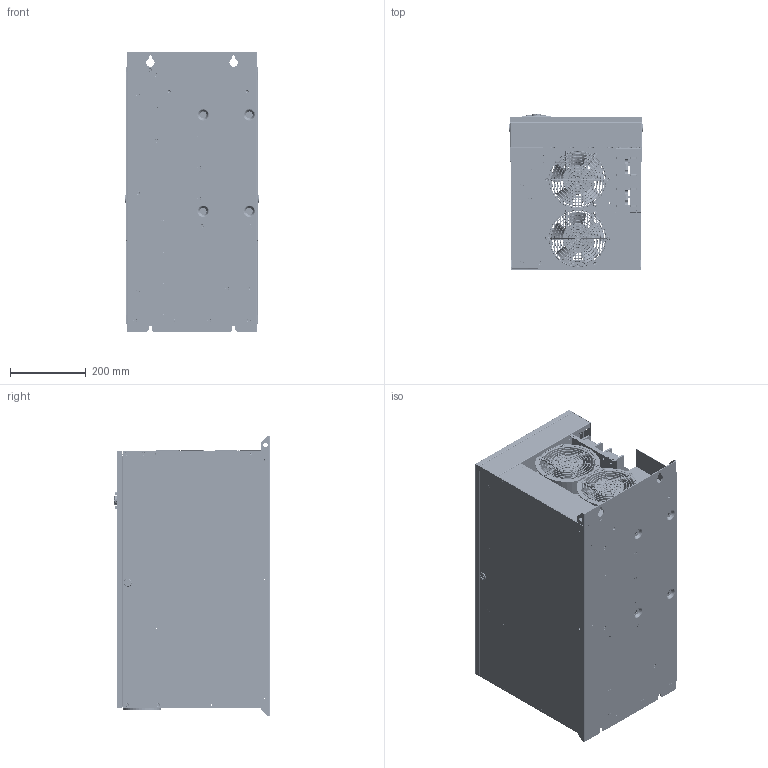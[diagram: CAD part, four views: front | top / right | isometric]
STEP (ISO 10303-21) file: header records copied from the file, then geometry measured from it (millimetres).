
FILE_DESCRIPTION(/* description */ (''),/* implementation_level */ '2;1');
FILE_NAME(/* name */ 'VF302C-B8-3d.step',/* time_stamp */ '2023-03-02T11:30:36+07:00',/* author */ (''),/* organization */ (''),/* preprocessor_version */ 'ST-DEVELOPER v19.2',/* originating_system */ 'Autodesk Translation Framework v11.17.0.187',/* authorisation */ '');
FILE_SCHEMA (('AUTOMOTIVE_DESIGN { 1 0 10303 214 3 1 1 }'));
Products named in the file (15): (Unsaved); VF302C-B8-D_ASM; VF302C-B8-P_ASM; P001_ASM; P014_ASM; P020_ASM; P021_ASM; display_2; knopka_pusk; knopka_stop; knopka_prg2; knopka_jog_rev; tablichka3_gc_v_a; gc_v_a; VEDAVFD
Assembly tree (14 placements, depth 3):
  (Unsaved)
    VF302C-B8-D_ASM
    VF302C-B8-P_ASM
      P001_ASM
      P014_ASM
      P020_ASM
      P021_ASM
    display_2
      knopka_pusk
      knopka_stop
      knopka_prg2
      knopka_jog_rev
    tablichka3_gc_v_a
      gc_v_a
    VEDAVFD
Bounding box: 355.5 x 412.77 x 738 mm (x, y, z)
Volume: 4757495 mm3; surface area: 4752076.3 mm2
Topology: 227 solids, 244 shells, 18916 faces, 49796 edges, 32381 vertices
Faces by surface type: plane 13080, bspline 2630, cylinder 2367, cone 415, torus 289, sphere 135
Full cylindrical faces by diameter (mm): 0.1 x4, 0.5 x8, 0.8 x30, 0.9 x8, 1 x19, 1.08 x1, 1.2 x2, 1.5 x4, 1.6 x2, 1.625 x2, 1.8 x8, 2 x30, 2.2 x12, 2.5 x32, 2.6 x6, 2.65 x12, 3 x11, 3.2 x1, 3.5 x1, 3.6 x22, 3.8 x20, 4 x93, 4.2 x92, 4.39 x2, 4.5 x20, 4.99 x4, 5 x30, 5.38 x22, 5.39 x6, 5.4 x57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
Entity records: 650707 total; most frequent: CARTESIAN_POINT 179470, ORIENTED_EDGE 99223, DIRECTION 88710, EDGE_CURVE 49770, LINE 37166, VECTOR 37166, VERTEX_POINT 32377, AXIS2_PLACEMENT_3D 25772
